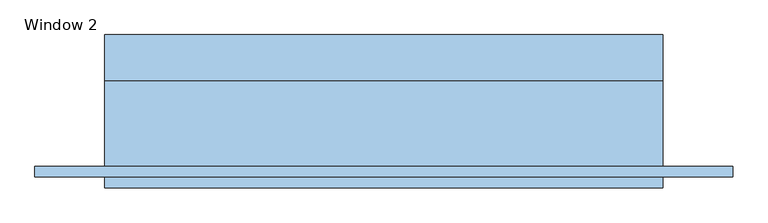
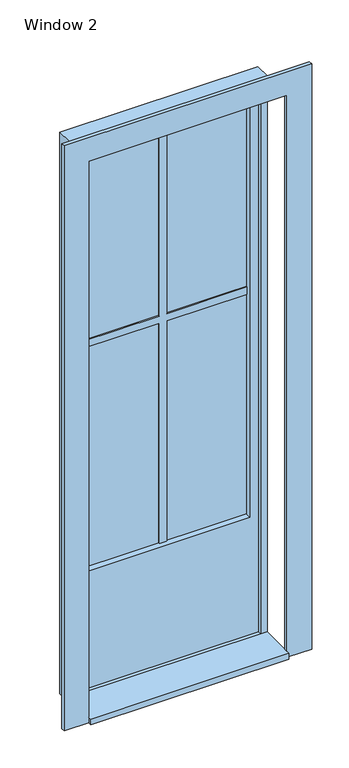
"""IFC4 building model written with IfcOpenShell, lengths in millimetres: window geometry, Window 2 : 800/2400."""

from ifc_helpers import new_model, si_unit, frame, origin, origin_with_axes, place, context, project, spatial, polyline, outline, extrude, source, transform, mapped, element, save


def window_2_775565f5(model_context):
    return source(origin(), model_context, "Body", "SweptSolid", [
        extrude(outline(polyline([(400.0, -26.9623738), (400.0, -180.0), (-400.0, -180.0), (-400.0, -26.9623738), (400.0, -26.9623738)])), origin_with_axes(), (0.0, 0.0, 1.0), 25.0),
        extrude(outline(polyline([(2375.0, -375.0), (25.0, -375.0), (25.0, 375.0), (2375.0, 375.0), (2375.0, -375.0)]), holes=[polyline([(2340.0, -340.0), (2340.0, 340.0), (525.0, 340.0), (525.0, -340.0), (2340.0, -340.0)])]), frame((0.0, -11.4811869, 0.0), z_axis=(0.0, 1.0, 0.0), x_axis=(0.0, 0.0, 1.0)), (0.0, 0.0, 1.0), 50.5),
        extrude(outline(polyline([(0.0, -400.0), (0.0, 400.0), (2400.0, 400.0), (2400.0, -400.0), (0.0, -400.0)]), holes=[polyline([(25.0, -375.0), (2375.0, -375.0), (2375.0, 375.0), (25.0, 375.0), (25.0, -375.0)])]), frame((0.0, -26.9623738, 0.0), z_axis=(0.0, 1.0, 0.0), x_axis=(0.0, 0.0, 1.0)), (0.0, 0.0, 1.0), 65.9811869),
        extrude(outline(polyline([(2400.0, -400.0), (2400.0, 400.0), (0.0, 400.0), (0.0, 500.0), (2500.0, 500.0), (2500.0, -500.0), (0.0, -500.0), (0.0, -400.0), (2400.0, -400.0)])), frame((0.0, -165.0, 0.0), z_axis=(0.0, 1.0, 0.0), x_axis=(0.0, 0.0, 1.0)), (0.0, 0.0, 1.0), 15.0),
        extrude(outline(polyline([(1497.5, 340.0), (1497.5, 15.0), (2340.0, 15.0), (2340.0, -15.0), (1497.5, -15.0), (1497.5, -340.0), (1467.5, -340.0), (1467.5, -15.0), (525.0, -15.0), (525.0, 15.0), (1467.5, 15.0), (1467.5, 340.0), (1497.5, 340.0)])), frame((0.0, 8.5188131, 0.0), z_axis=(0.0, 1.0, 0.0), x_axis=(0.0, 0.0, 1.0)), (0.0, 0.0, 1.0), 20.0),
        extrude(outline(polyline([(340.0, 15.5188131), (340.0, 13.5188131), (-340.0, 13.5188131), (-340.0, 15.5188131), (340.0, 15.5188131)])), frame((0.0, 0.0, 525.0), z_axis=(0.0, 0.0, 1.0), x_axis=(1.0, 0.0, 0.0)), (0.0, 0.0, 1.0), 1815.0),
    ])


if __name__ == "__main__":
    model = new_model("IFC4")
    model_context = context("Model", 3, world=origin())
    ifc_project = project(units=[si_unit("LENGTHUNIT", "METRE", prefix="MILLI")], contexts=[model_context])
    site = spatial("IfcSite", under=ifc_project)
    building = spatial("IfcBuilding", under=site)
    placement = place(None, origin())
    window_2_shape = window_2_775565f5(model_context)
    element("IfcWindow", 1, ObjectType="Window 2 : 800/2400", at=placement, inside=building, context=model_context, shape_type="MappedRepresentation", body=[
        mapped(window_2_shape, transform((0.0, 0.0, 0.0), x_axis=(1.0, 0.0, 0.0), y_axis=(0.0, 1.0, 0.0), z_axis=(0.0, 0.0, 1.0))),
    ])
    save(model, "model.ifc")
